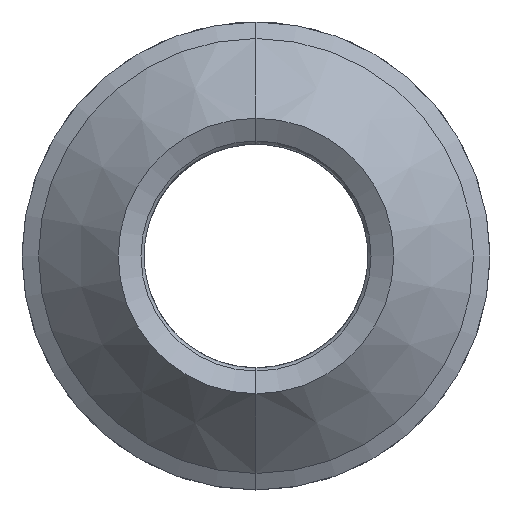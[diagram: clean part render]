
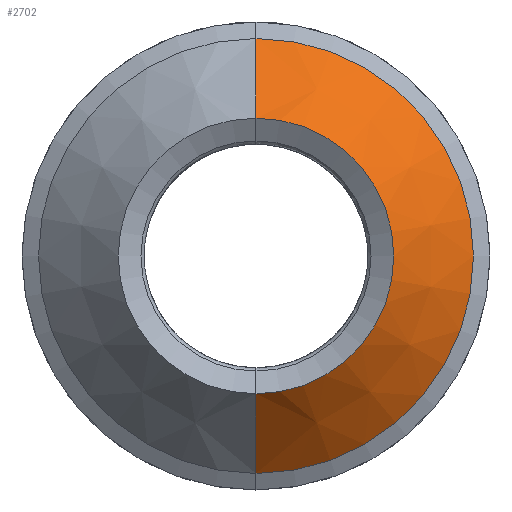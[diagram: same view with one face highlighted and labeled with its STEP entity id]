
A CAD part, front view. The second image highlights one B-rep face of the part: STEP entity #2702.
In plain terms, the highlighted conical face has half-angle 45 degrees and reference radius 4.647 mm.
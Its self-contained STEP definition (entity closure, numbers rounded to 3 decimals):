
#664 = VERTEX_POINT ( 'NONE', #5647 ) ;
#1120 = CONICAL_SURFACE ( 'NONE', #4118, 4.647, 0.785 ) ;
#1313 = CARTESIAN_POINT ( 'NONE',  ( 153.22, 88.791, 4.647 ) ) ;
#1673 = CARTESIAN_POINT ( 'NONE',  ( 153.22, 88.791, 4.647 ) ) ;
#1766 = DIRECTION ( 'NONE',  ( 0., 1., 0. ) ) ;
#1805 = CARTESIAN_POINT ( 'NONE',  ( 153.22, 88.791, -4.647 ) ) ;
#1850 = ORIENTED_EDGE ( 'NONE', *, *, #2933, .T. ) ;
#2036 = CIRCLE ( 'NONE', #6283, 4.647 ) ;
#2063 = ORIENTED_EDGE ( 'NONE', *, *, #3772, .F. ) ;
#2315 = CARTESIAN_POINT ( 'NONE',  ( 153.22, 88.791, 0. ) ) ;
#2361 = ORIENTED_EDGE ( 'NONE', *, *, #4415, .T. ) ;
#2610 = VECTOR ( 'NONE', #4020, 1000. ) ;
#2630 = DIRECTION ( 'NONE',  ( 0., -1., 0. ) ) ;
#2702 = ADVANCED_FACE ( 'NONE', ( #4479 ), #1120, .T. ) ;
#2747 = AXIS2_PLACEMENT_3D ( 'NONE', #5116, #2898, #5086 ) ;
#2826 = CARTESIAN_POINT ( 'NONE',  ( 153.22, 87.088, 2.945 ) ) ;
#2898 = DIRECTION ( 'NONE',  ( 0., 1., 0. ) ) ;
#2933 = EDGE_CURVE ( 'NONE', #664, #6372, #2036, .T. ) ;
#3326 = CIRCLE ( 'NONE', #2747, 2.945 ) ;
#3772 = EDGE_CURVE ( 'NONE', #6462, #6372, #5412, .T. ) ;
#3922 = DIRECTION ( 'NONE',  ( 0., 0.707, 0.707 ) ) ;
#3976 = DIRECTION ( 'NONE',  ( 0., 0., 1. ) ) ;
#4020 = DIRECTION ( 'NONE',  ( 0., 0.707, -0.707 ) ) ;
#4118 = AXIS2_PLACEMENT_3D ( 'NONE', #2315, #1766, #3976 ) ;
#4415 = EDGE_CURVE ( 'NONE', #6462, #6996, #3326, .T. ) ;
#4431 = CARTESIAN_POINT ( 'NONE',  ( 153.22, 88.791, 0. ) ) ;
#4479 = FACE_OUTER_BOUND ( 'NONE', #5802, .T. ) ;
#4697 = CARTESIAN_POINT ( 'NONE',  ( 153.22, 87.088, -2.945 ) ) ;
#5057 = VECTOR ( 'NONE', #3922, 1000. ) ;
#5086 = DIRECTION ( 'NONE',  ( 0., 0., 1. ) ) ;
#5116 = CARTESIAN_POINT ( 'NONE',  ( 153.22, 87.088, 0. ) ) ;
#5412 = LINE ( 'NONE', #1673, #5057 ) ;
#5647 = CARTESIAN_POINT ( 'NONE',  ( 153.22, 88.791, -4.647 ) ) ;
#5802 = EDGE_LOOP ( 'NONE', ( #2361, #6130, #1850, #2063 ) ) ;
#6130 = ORIENTED_EDGE ( 'NONE', *, *, #6830, .T. ) ;
#6283 = AXIS2_PLACEMENT_3D ( 'NONE', #4431, #2630, #6608 ) ;
#6372 = VERTEX_POINT ( 'NONE', #1313 ) ;
#6462 = VERTEX_POINT ( 'NONE', #2826 ) ;
#6608 = DIRECTION ( 'NONE',  ( 0., 0., 1. ) ) ;
#6764 = LINE ( 'NONE', #1805, #2610 ) ;
#6830 = EDGE_CURVE ( 'NONE', #6996, #664, #6764, .T. ) ;
#6996 = VERTEX_POINT ( 'NONE', #4697 ) ;
